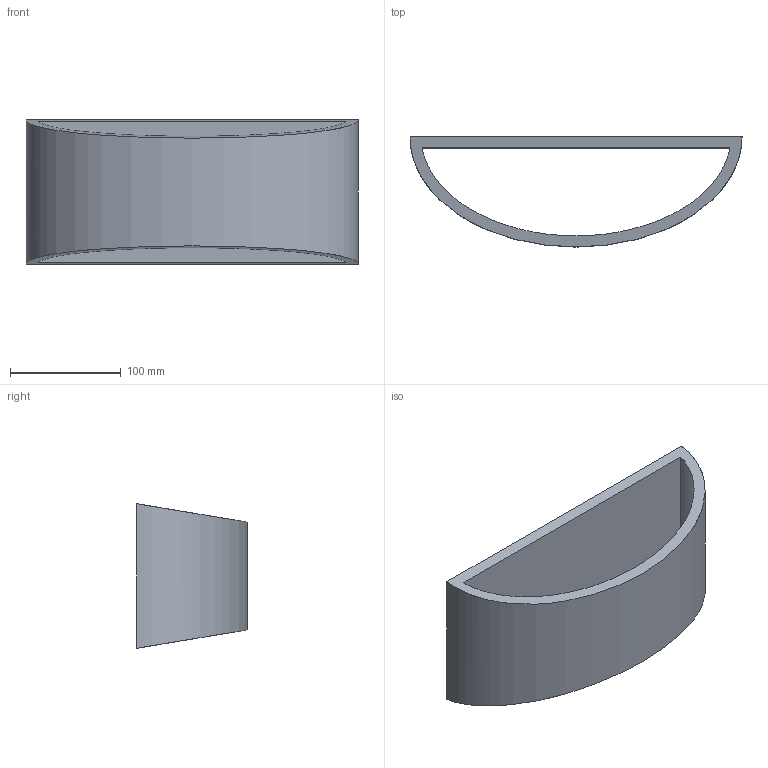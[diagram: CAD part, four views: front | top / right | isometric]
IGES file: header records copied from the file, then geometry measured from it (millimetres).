
Global section: file name: C:\Users\EQUIPO\Desktop\COLECCIONES ACB MODELADAS 3D OK\DANA\dana-16-3387-e14.igs; native system: Rhinoceros ( Oct  8 2013 ); preprocessor: Trout Lake IGES 012 Oct  8 2013; date: 190201.181232; units: millimetre
Bounding box: 300 x 99.45 x 130.49 mm (x, y, z)
Surface area: 168338.7 mm2 (no closed solid volume)
Topology: 0 solids, 0 shells, 6 faces, 280 edges, 280 vertices
Faces by surface type: bspline 6
